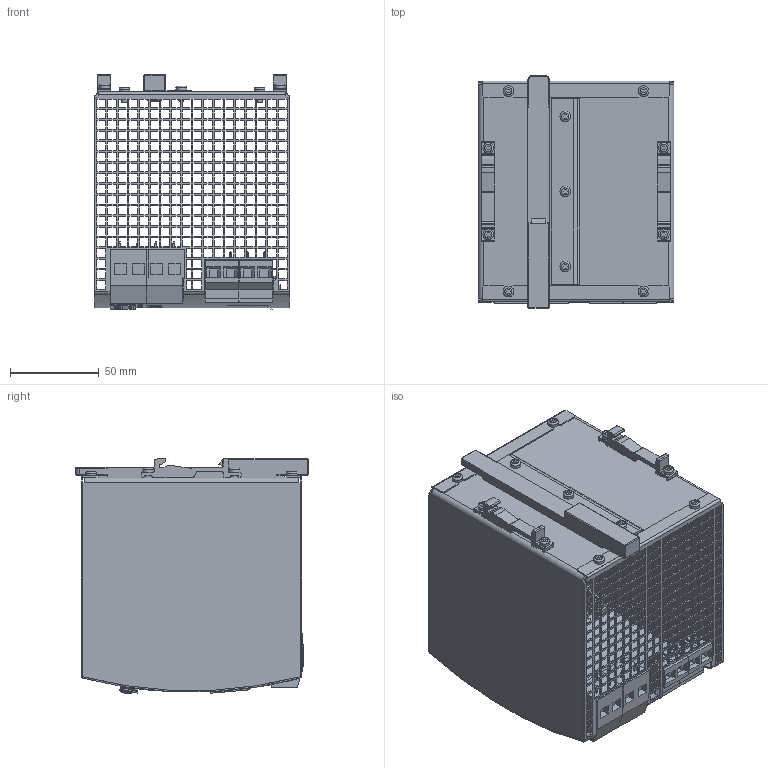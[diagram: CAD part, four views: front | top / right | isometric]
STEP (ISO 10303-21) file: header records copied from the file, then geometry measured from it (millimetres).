
FILE_DESCRIPTION((''),'2;1');
FILE_NAME('C:\Dokumente und Einstellungen\raabk\Eigene Dateien\tmp\MOCKUP\md3_qt40_241.stp','2009-01-28T16:01:15',('raabk'),(''),'Autodesk Inventor 2009','Autodesk Inventor 2009','');
FILE_SCHEMA(('AUTOMOTIVE_DESIGN { 1 0 10303 214 1 1 1 1 }'));
Length unit declared in the file: millimetre
Products named in the file (15): 374.00; HOUSING COVER 374.00; HOUSING BODY L 374.00; HOUSING BODY R 374.00; TERMINAL 2POL R10,16 SCREW; TERMINAL 4POL R5; JUMPER BRACKET; JUMPER; TERMINAL 2P R9,52 BK; SCREW 3x6; T HOLDER; SLIDER; POTENTIOMETER COVER; LED RD; LED GN
Assembly tree (27 placements, depth 2):
  374.00
    HOUSING COVER 374.00
    HOUSING BODY L 374.00
    HOUSING BODY R 374.00
    TERMINAL 2POL R10,16 SCREW  x2
    TERMINAL 4POL R5
    JUMPER BRACKET
    JUMPER
    TERMINAL 2P R9,52 BK  x2
    SCREW 3x6  x11
    T HOLDER  x2
    SLIDER
    POTENTIOMETER COVER
    LED RD
    LED GN
Bounding box: 110 x 130.5 x 132.07 mm (x, y, z)
Volume: 129565 mm3; surface area: 168186.8 mm2
Topology: 27 solids, 27 shells, 4707 faces, 13136 edges, 8707 vertices
Faces by surface type: plane 3803, bspline 507, cylinder 335, cone 25, torus 25, sphere 12
Full cylindrical faces by diameter (mm): 0.05 x4, 0.8 x8, 1 x2, 2.45 x3, 3 x11, 3.1 x4, 3.2 x3, 4.199 x1, 4.355 x1, 4.5 x2, 4.6 x2, 4.899 x1, 5.15 x4, 5.5 x4, 6 x11
Entity records: 150538 total; most frequent: CARTESIAN_POINT 38391, ORIENTED_EDGE 24254, DIRECTION 19674, EDGE_CURVE 12127, VECTOR 10154, LINE 10154, VERTEX_POINT 8067, EDGE_LOOP 5726
